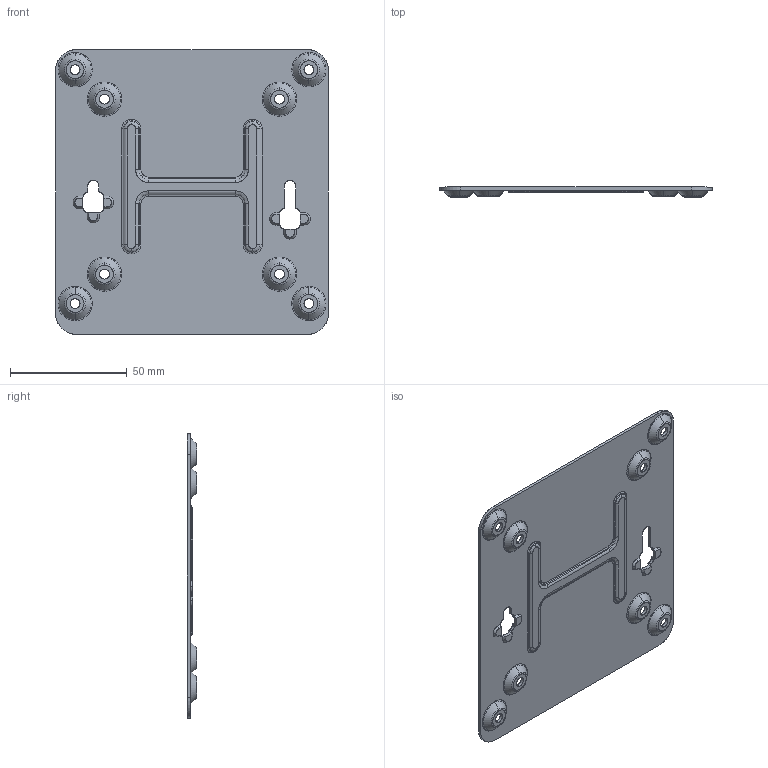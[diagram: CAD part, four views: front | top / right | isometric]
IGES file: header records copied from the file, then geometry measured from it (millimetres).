
Start section: SolidWorks IGES file using analytic representation for surfaces
Global section: file name: E:\juarez\desenhos\solidworks\NUC_DC3217BY\enviar_2\IGES_NUC_vesa_bracket.IGS; native system: SolidWorks 2013; preprocessor: SolidWorks 2013; author: Juarez-scn; date: 140423.145843; units: millimetre
Bounding box: 117 x 4.1 x 122 mm (x, y, z)
Surface area: 29410.4 mm2 (no closed solid volume)
Topology: 0 solids, 0 shells, 334 faces, 4024 edges, 4024 vertices
Faces by surface type: bspline 178, revolution 156
